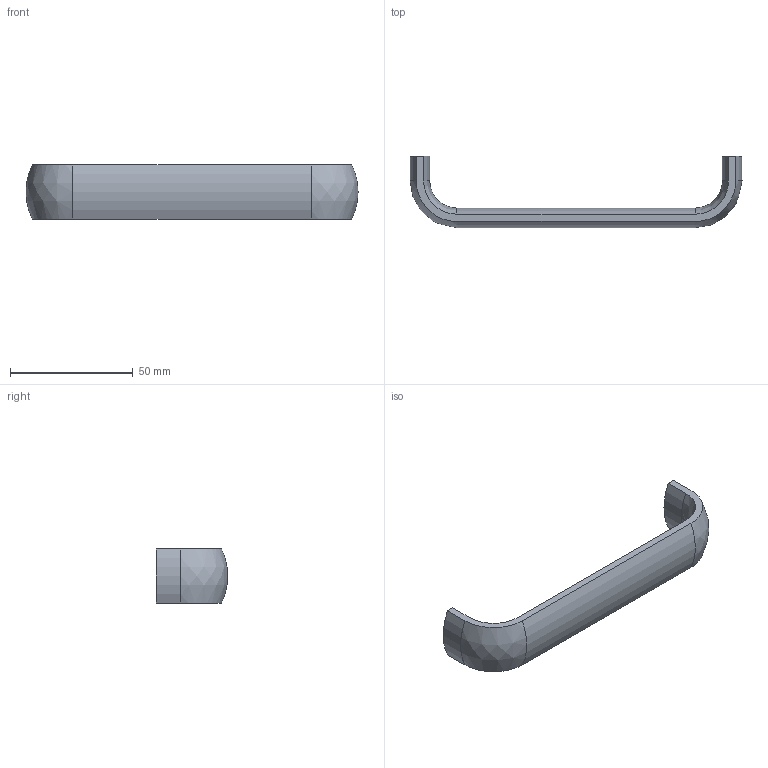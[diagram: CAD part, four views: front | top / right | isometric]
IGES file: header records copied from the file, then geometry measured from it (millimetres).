
Start section: Data from Parasolid IGES Translator 15.0.47, Copyright(c) 2006 Siemens P LM Software. All Rights Reserved.
Global section: file name:  115169.igs; native system:  By UGS Corp.; preprocessor: XPlus GENERIC/IGES 3.0; author: Noname; organization: Noname; date: 20140122.153448; units: millimetre
Bounding box: 135 x 29 x 22 mm (x, y, z)
Surface area: 8960.5 mm2 (no closed solid volume)
Topology: 0 solids, 0 shells, 24 faces, 120 edges, 118 vertices
Faces by surface type: revolution 14, extrusion 10
